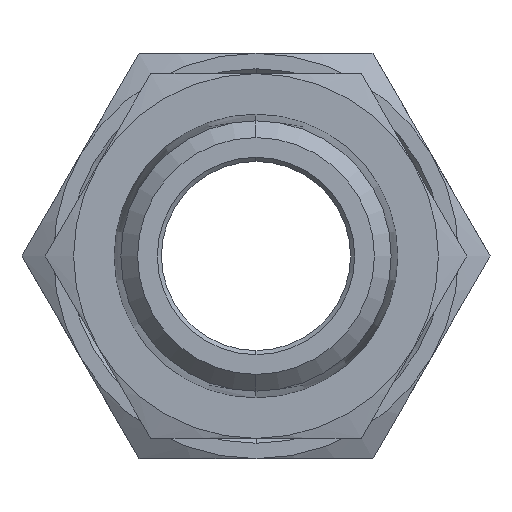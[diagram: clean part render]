
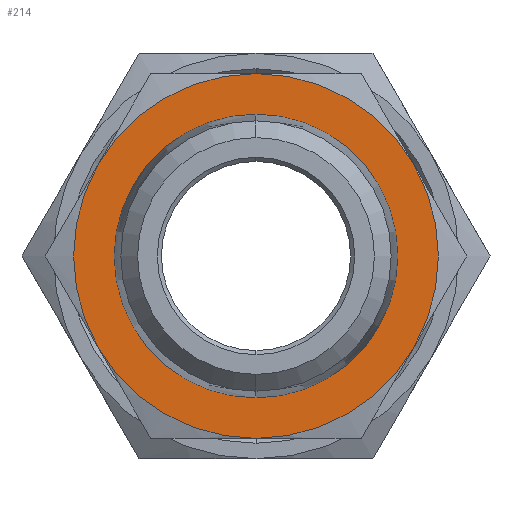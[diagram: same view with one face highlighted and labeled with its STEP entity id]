
A CAD part, left-side view. The second image highlights one B-rep face of the part: STEP entity #214.
In plain terms, the highlighted planar face has unit normal (-1, 0, 0) as drawn and (0, -1, 0) by its records, which use the part's own axes.
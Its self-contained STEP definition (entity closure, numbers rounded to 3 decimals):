
#33 = VERTEX_POINT ( 'NONE', #508 ) ;
#75 = CARTESIAN_POINT ( 'NONE',  ( 11.691, 0., -6.75 ) ) ;
#137 = VERTEX_POINT ( 'NONE', #3664 ) ;
#181 = AXIS2_PLACEMENT_3D ( 'NONE', #2464, #3089, #3409 ) ;
#191 = CIRCLE ( 'NONE', #2562, 10.5 ) ;
#214 = ADVANCED_FACE ( 'NONE', ( #3334, #2703 ), #3015, .T. ) ;
#239 = VERTEX_POINT ( 'NONE', #1114 ) ;
#339 = EDGE_CURVE ( 'NONE', #33, #2821, #1756, .T. ) ;
#424 = ORIENTED_EDGE ( 'NONE', *, *, #2675, .T. ) ;
#453 = CARTESIAN_POINT ( 'NONE',  ( 0., 0., 0. ) ) ;
#508 = CARTESIAN_POINT ( 'NONE',  ( 0., 0., -13.5 ) ) ;
#531 = DIRECTION ( 'NONE',  ( 0., 0., -1. ) ) ;
#631 = CARTESIAN_POINT ( 'NONE',  ( 0., 0., 13.5 ) ) ;
#696 = AXIS2_PLACEMENT_3D ( 'NONE', #1758, #2613, #531 ) ;
#750 = AXIS2_PLACEMENT_3D ( 'NONE', #2318, #1387, #1995 ) ;
#837 = CARTESIAN_POINT ( 'NONE',  ( 0., 0., 10.5 ) ) ;
#909 = ORIENTED_EDGE ( 'NONE', *, *, #3228, .F. ) ;
#918 = DIRECTION ( 'NONE',  ( 0., 0., -1. ) ) ;
#1022 = VERTEX_POINT ( 'NONE', #3670 ) ;
#1114 = CARTESIAN_POINT ( 'NONE',  ( -11.691, 0., 6.75 ) ) ;
#1124 = EDGE_CURVE ( 'NONE', #239, #1203, #1506, .T. ) ;
#1170 = DIRECTION ( 'NONE',  ( 0., -1., 0. ) ) ;
#1203 = VERTEX_POINT ( 'NONE', #2368 ) ;
#1224 = EDGE_CURVE ( 'NONE', #2334, #239, #3978, .T. ) ;
#1297 = ORIENTED_EDGE ( 'NONE', *, *, #339, .T. ) ;
#1312 = EDGE_CURVE ( 'NONE', #3648, #137, #191, .T. ) ;
#1336 = CARTESIAN_POINT ( 'NONE',  ( 0., 0., 0. ) ) ;
#1381 = DIRECTION ( 'NONE',  ( 0., 0., -1. ) ) ;
#1387 = DIRECTION ( 'NONE',  ( 0., -1., 0. ) ) ;
#1446 = CIRCLE ( 'NONE', #181, 13.5 ) ;
#1506 = CIRCLE ( 'NONE', #750, 13.5 ) ;
#1507 = CARTESIAN_POINT ( 'NONE',  ( 0., 0., 0. ) ) ;
#1551 = AXIS2_PLACEMENT_3D ( 'NONE', #1507, #1170, #3095 ) ;
#1581 = EDGE_CURVE ( 'NONE', #2821, #1022, #1446, .T. ) ;
#1694 = AXIS2_PLACEMENT_3D ( 'NONE', #3133, #2517, #2224 ) ;
#1734 = DIRECTION ( 'NONE',  ( 0., 0., -1. ) ) ;
#1756 = CIRCLE ( 'NONE', #1551, 13.5 ) ;
#1758 = CARTESIAN_POINT ( 'NONE',  ( 7.794, 0., 13.5 ) ) ;
#1995 = DIRECTION ( 'NONE',  ( 0., 0., -1. ) ) ;
#2044 = ORIENTED_EDGE ( 'NONE', *, *, #1124, .T. ) ;
#2210 = AXIS2_PLACEMENT_3D ( 'NONE', #453, #2654, #1381 ) ;
#2224 = DIRECTION ( 'NONE',  ( 0., 0., -1. ) ) ;
#2241 = AXIS2_PLACEMENT_3D ( 'NONE', #2801, #3405, #918 ) ;
#2261 = DIRECTION ( 'NONE',  ( 0., -1., 0. ) ) ;
#2312 = DIRECTION ( 'NONE',  ( 0., 0., -1. ) ) ;
#2318 = CARTESIAN_POINT ( 'NONE',  ( 0., 0., 0. ) ) ;
#2334 = VERTEX_POINT ( 'NONE', #631 ) ;
#2352 = AXIS2_PLACEMENT_3D ( 'NONE', #1336, #2261, #2312 ) ;
#2368 = CARTESIAN_POINT ( 'NONE',  ( -11.691, 0., -6.75 ) ) ;
#2464 = CARTESIAN_POINT ( 'NONE',  ( 0., 0., 0. ) ) ;
#2499 = CIRCLE ( 'NONE', #2241, 10.5 ) ;
#2517 = DIRECTION ( 'NONE',  ( 0., -1., 0. ) ) ;
#2562 = AXIS2_PLACEMENT_3D ( 'NONE', #2680, #3304, #1734 ) ;
#2613 = DIRECTION ( 'NONE',  ( 0., -1., 0. ) ) ;
#2654 = DIRECTION ( 'NONE',  ( 0., -1., 0. ) ) ;
#2675 = EDGE_CURVE ( 'NONE', #1203, #33, #2715, .T. ) ;
#2680 = CARTESIAN_POINT ( 'NONE',  ( 0., 0., 0. ) ) ;
#2703 = FACE_OUTER_BOUND ( 'NONE', #3761, .T. ) ;
#2715 = CIRCLE ( 'NONE', #2352, 13.5 ) ;
#2801 = CARTESIAN_POINT ( 'NONE',  ( 0., 0., 0. ) ) ;
#2821 = VERTEX_POINT ( 'NONE', #75 ) ;
#3015 = PLANE ( 'NONE',  #696 ) ;
#3089 = DIRECTION ( 'NONE',  ( 0., -1., 0. ) ) ;
#3095 = DIRECTION ( 'NONE',  ( 0., 0., -1. ) ) ;
#3133 = CARTESIAN_POINT ( 'NONE',  ( 0., 0., 0. ) ) ;
#3200 = ORIENTED_EDGE ( 'NONE', *, *, #3251, .T. ) ;
#3228 = EDGE_CURVE ( 'NONE', #137, #3648, #2499, .T. ) ;
#3236 = CIRCLE ( 'NONE', #1694, 13.5 ) ;
#3251 = EDGE_CURVE ( 'NONE', #1022, #2334, #3236, .T. ) ;
#3304 = DIRECTION ( 'NONE',  ( 0., -1., 0. ) ) ;
#3334 = FACE_BOUND ( 'NONE', #3972, .T. ) ;
#3405 = DIRECTION ( 'NONE',  ( 0., -1., 0. ) ) ;
#3409 = DIRECTION ( 'NONE',  ( 0., 0., -1. ) ) ;
#3602 = ORIENTED_EDGE ( 'NONE', *, *, #1224, .T. ) ;
#3648 = VERTEX_POINT ( 'NONE', #837 ) ;
#3664 = CARTESIAN_POINT ( 'NONE',  ( 0., 0., -10.5 ) ) ;
#3670 = CARTESIAN_POINT ( 'NONE',  ( 11.691, 0., 6.75 ) ) ;
#3761 = EDGE_LOOP ( 'NONE', ( #424, #1297, #3918, #3200, #3602, #2044 ) ) ;
#3824 = ORIENTED_EDGE ( 'NONE', *, *, #1312, .F. ) ;
#3918 = ORIENTED_EDGE ( 'NONE', *, *, #1581, .T. ) ;
#3972 = EDGE_LOOP ( 'NONE', ( #909, #3824 ) ) ;
#3978 = CIRCLE ( 'NONE', #2210, 13.5 ) ;
